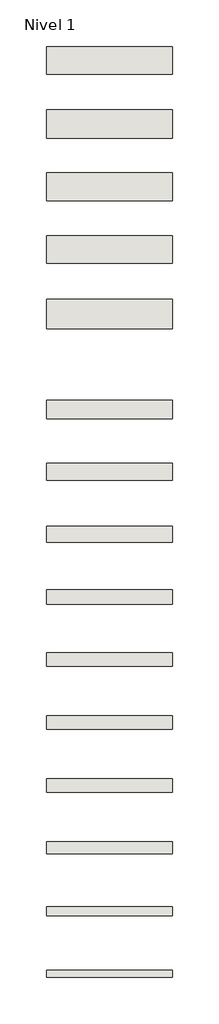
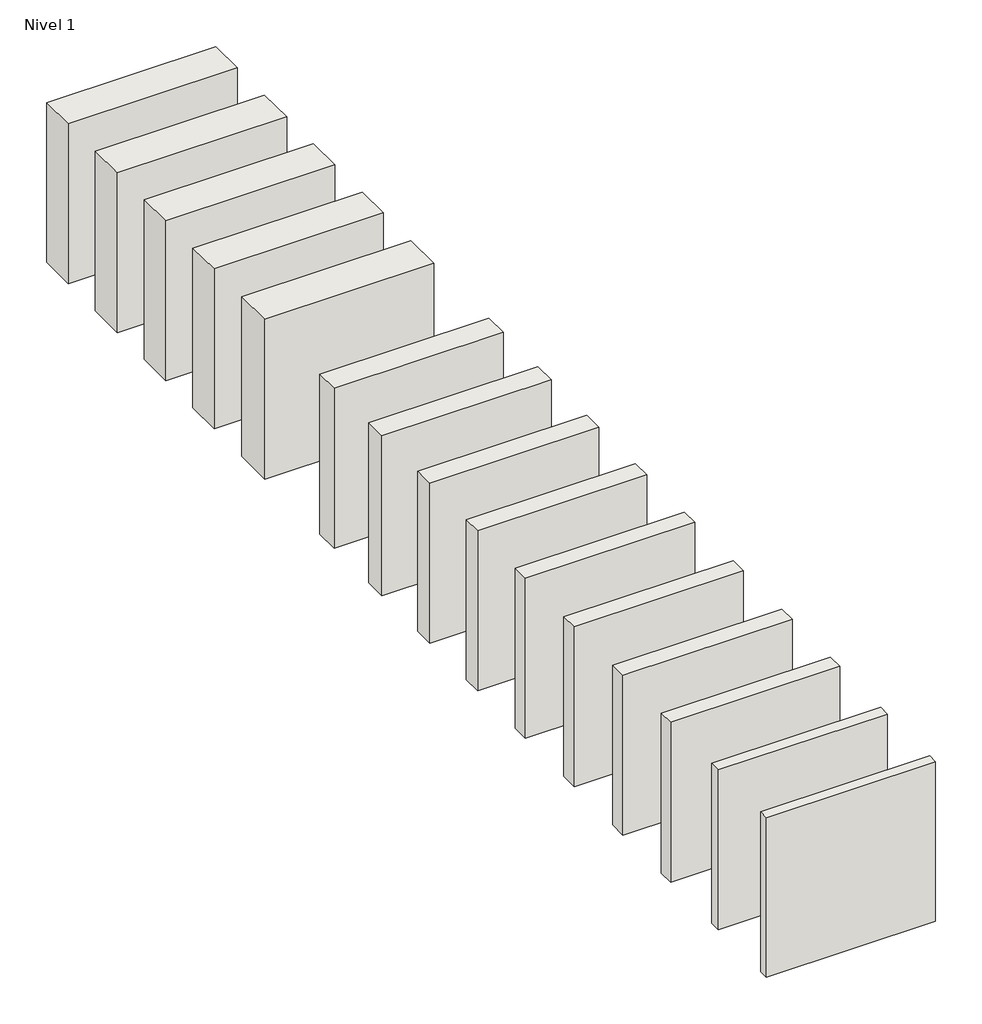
# One storey: 15 walls.
"""IFC4 building model written with IfcOpenShell, lengths in millimetres."""

import ifcopenshell
import ifcopenshell.guid

model = None  # the IFC model being written
_history = None  # IfcOwnerHistory: only IFC2X3 demands one
_inside = {}  # id of a spatial element -> (the spatial element, [elements in it])
_under = {}  # id of a project, library or spatial element -> (it, [spatial elements below it])
_declared = {}  # id of a project -> (the project, [libraries it declares])
_typed = {}  # id of a type object -> (the type object, [elements of that type])
_made_of = {}  # id of a material, layer set ... -> (it, [elements and type objects made of it])


def new_model(schema):
    """Start an empty IFC model of exactly this schema.

    Asked for "IFC4X3", IfcOpenShell would pick the latest addendum, in which some entities
    have other attributes; the version numbers below select the first issue.
    IFC2X3 requires an IfcOwnerHistory on every rooted entity: one is made here for all.
    """
    global model, _history
    if schema == "IFC4X3":
        model = ifcopenshell.file(schema_version=(4, 3, 0, 0))
    else:
        model = ifcopenshell.file(schema=schema)
    _inside.clear()
    _under.clear()
    _declared.clear()
    _typed.clear()
    _made_of.clear()
    _history = None
    if model.schema == "IFC2X3":
        org = make("IfcOrganization", Name="unknown")
        user = make(
            "IfcPersonAndOrganization",
            ThePerson=make("IfcPerson", FamilyName="unknown"),
            TheOrganization=org,
        )
        app = make(
            "IfcApplication",
            ApplicationDeveloper=org,
            Version="unknown",
            ApplicationFullName="unknown",
            ApplicationIdentifier="unknown",
        )
        _history = make(
            "IfcOwnerHistory",
            OwningUser=user,
            OwningApplication=app,
            ChangeAction="ADDED",
            CreationDate=0,
        )
    return model


def make(cls, **values):
    """One entity of the class cls with the attributes given. An attribute that is None is left unset."""
    return model.create_entity(
        cls, **{name: value for name, value in values.items() if value is not None}
    )


def rooted(cls, **values):
    """An entity with a GlobalId (a new one), such as an element, a storey or a relation."""
    return make(cls, GlobalId=ifcopenshell.guid.new(), OwnerHistory=_history, **values)


def si_unit(unit_type, name, prefix=None):
    """IfcSIUnit, for example si_unit("LENGTHUNIT", "METRE", prefix="MILLI")."""
    return make("IfcSIUnit", UnitType=unit_type, Prefix=prefix, Name=name)


def assignment(units):
    """IfcUnitAssignment: the units of a project."""
    return None if units is None else make("IfcUnitAssignment", Units=units)


def point(xyz):
    """IfcCartesianPoint."""
    return None if xyz is None else make("IfcCartesianPoint", Coordinates=xyz)


def direction(xyz):
    """IfcDirection."""
    return None if xyz is None else make("IfcDirection", DirectionRatios=xyz)


def frame(location, z_axis=None, x_axis=None):
    """IfcAxis2Placement3D, a coordinate frame: its origin and axes. An axis left out is left unset."""
    return make(
        "IfcAxis2Placement3D",
        Location=point(location),
        Axis=direction(z_axis),
        RefDirection=direction(x_axis),
    )


def origin():
    """The frame at (0, 0, 0) with its axes left unset."""
    return frame((0.0, 0.0, 0.0))


def origin_with_axes():
    """The frame at (0, 0, 0) with the z axis (0, 0, 1) and the x axis (1, 0, 0) written out."""
    return frame((0.0, 0.0, 0.0), z_axis=(0.0, 0.0, 1.0), x_axis=(1.0, 0.0, 0.0))


def place(relative_to, where):
    """IfcLocalPlacement: puts the frame where relative to a parent placement (None: the world)."""
    return make(
        "IfcLocalPlacement", PlacementRelTo=relative_to, RelativePlacement=where
    )


def context(
    kind, dimensions, precision=None, world=None, true_north=None, identifier=None
):
    """IfcGeometricRepresentationContext, for example the 3D "Model" context."""
    return make(
        "IfcGeometricRepresentationContext",
        ContextIdentifier=identifier,
        ContextType=kind,
        CoordinateSpaceDimension=dimensions,
        Precision=precision,
        WorldCoordinateSystem=world,
        TrueNorth=true_north,
    )


def project(units=None, contexts=None):
    """IfcProject with its units and contexts."""
    return rooted(
        "IfcProject",
        Name="project",
        RepresentationContexts=contexts,
        UnitsInContext=assignment(units),
    )


def spatial(cls, under=None, at=None, **own):
    """A site, building, storey or space (cls), placed at a placement, below another one or the project."""
    s = rooted(cls, ObjectPlacement=at, **own)
    if under is not None:
        _under.setdefault(under.id(), (under, []))[1].append(s)
    return s


def polyline(points):
    """IfcPolyline through the points."""
    return make("IfcPolyline", Points=[point(p) for p in points])


def outline(outer, holes=None, kind="AREA"):
    """IfcArbitraryClosedProfileDef: a profile drawn as a closed curve; with holes, ...WithVoids."""
    if holes is None:
        return make("IfcArbitraryClosedProfileDef", ProfileType=kind, OuterCurve=outer)
    return make(
        "IfcArbitraryProfileDefWithVoids",
        ProfileType=kind,
        OuterCurve=outer,
        InnerCurves=holes,
    )


def extrude(swept, where, along, depth):
    """IfcExtrudedAreaSolid: the profile swept, set in the frame where, extruded along a direction by depth."""
    return make(
        "IfcExtrudedAreaSolid",
        SweptArea=swept,
        Position=where,
        ExtrudedDirection=direction(along),
        Depth=depth,
    )


def shape(context_of_items, identifier, shape_type, items):
    """IfcShapeRepresentation: the items that make up one representation, for example the "Body"."""
    return make(
        "IfcShapeRepresentation",
        ContextOfItems=context_of_items,
        RepresentationIdentifier=identifier,
        RepresentationType=shape_type,
        Items=items,
    )


def made_of(thing, what):
    """Note that an element or type object is made of a material, layer set ...; save() writes the relation."""
    if what is not None:
        _made_of.setdefault(what.id(), (what, []))[1].append(thing)
    return thing


def element(
    cls,
    number,
    at=None,
    inside=None,
    cuts=None,
    type_object=None,
    material=None,
    context=None,
    identifier="Body",
    shape_type=None,
    held_by="IfcProductDefinitionShape",
    body=None,
    shapes=None,
    **own,
):
    """One element of the class cls, such as IfcWall. Its Tag is "e" and its number.

    at: its placement. inside: the storey or other place that contains it. cuts: it is an
    opening in that element (IfcRelVoidsElement). A single representation is given by context,
    identifier, shape_type and body (its items); several are given by shapes. held_by: the class
    of the entity that holds the representations. save() writes the other relations.
    """
    e = rooted(cls, Tag="e%d" % number, ObjectPlacement=at, **own)
    if body is not None:
        shapes = [shape(context, identifier, shape_type, body)]
    if shapes is not None:
        e.Representation = make(held_by, Representations=shapes)
    if inside is not None:
        _inside.setdefault(inside.id(), (inside, []))[1].append(e)
    if cuts is not None:
        rooted(
            "IfcRelVoidsElement", RelatingBuildingElement=cuts, RelatedOpeningElement=e
        )
    if type_object is not None:
        _typed.setdefault(type_object.id(), (type_object, []))[1].append(e)
    return made_of(e, material)


def aggregate(whole, parts):
    """IfcRelAggregates: a whole, such as a stair, and the parts it consists of."""
    return rooted("IfcRelAggregates", RelatingObject=whole, RelatedObjects=parts)


def save(model, path):
    """Write the relations noted so far, then the file.

    IfcRelAggregates (storeys below a building ...), IfcRelContainedInSpatialStructure (elements
    in a storey), IfcRelDefinesByType, IfcRelAssociatesMaterial and IfcRelDeclares: one each for
    every whole, place, type object, material and project.
    """
    for whole, parts in _under.values():
        aggregate(whole, parts)
    for where, things in _inside.values():
        rooted(
            "IfcRelContainedInSpatialStructure",
            RelatedElements=things,
            RelatingStructure=where,
        )
    for kind, things in _typed.values():
        rooted("IfcRelDefinesByType", RelatedObjects=things, RelatingType=kind)
    for what, things in _made_of.values():
        rooted("IfcRelAssociatesMaterial", RelatedObjects=things, RelatingMaterial=what)
    for by, libraries in _declared.values():
        rooted("IfcRelDeclares", RelatingContext=by, RelatedDefinitions=libraries)
    model.write(path)


model = new_model("IFC4")

# Units and contexts
model_context = context("Model", 3, world=origin())
ifc_project = project(units=[si_unit("LENGTHUNIT", "METRE", prefix="MILLI")], contexts=[model_context])

# Site, building, storey
site = spatial("IfcSite", under=ifc_project)
building = spatial("IfcBuilding", under=site)
storey = spatial("IfcBuildingStorey", under=building, Name="Nivel 1", Elevation=0.0)

# Walls
placement = place(None, origin())
element("IfcWall", 1, ObjectType="Tabimax Megabrick 4", at=placement, inside=storey, context=model_context, shape_type="SweptSolid", body=[
    extrude(outline(polyline([(-1966.2152419, 1661.7890128), (-2966.2152419, 1661.7890128), (-2966.2152419, 1719.7890128), (-1966.2152419, 1719.7890128), (-1966.2152419, 1661.7890128)])), origin_with_axes(), (0.0, 0.0, 1.0), 1000.0),
])
element("IfcWall", 2, ObjectType="Tabimax Megabrick 5", at=placement, inside=storey, context=model_context, shape_type="SweptSolid", body=[
    extrude(outline(polyline([(-1966.2152419, 2151.7890128), (-2966.2152419, 2151.7890128), (-2966.2152419, 2219.7890128), (-1966.2152419, 2219.7890128), (-1966.2152419, 2151.7890128)])), origin_with_axes(), (0.0, 0.0, 1.0), 1000.0),
])
element("IfcWall", 3, ObjectType="Tabimax Megabrick 6", at=placement, inside=storey, context=model_context, shape_type="SweptSolid", body=[
    extrude(outline(polyline([(-1966.2152419, 2641.7890128), (-2966.2152419, 2641.7890128), (-2966.2152419, 2737.7890128), (-1966.2152419, 2737.7890128), (-1966.2152419, 2641.7890128)])), origin_with_axes(), (0.0, 0.0, 1.0), 1000.0),
])
element("IfcWall", 4, ObjectType="Tabimax Megabrick 7 Tabique", at=placement, inside=storey, context=model_context, shape_type="SweptSolid", body=[
    extrude(outline(polyline([(-1966.2152419, 3129.8319856), (-2966.2152419, 3129.8319856), (-2966.2152419, 3233.8319856), (-1966.2152419, 3233.8319856), (-1966.2152419, 3129.8319856)])), origin_with_axes(), (0.0, 0.0, 1.0), 1000.0),
])
element("IfcWall", 5, ObjectType="Tabimax Megabrick 7 Triple Acústico", at=placement, inside=storey, context=model_context, shape_type="SweptSolid", body=[
    extrude(outline(polyline([(-1966.2152419, 3627.8319856), (-2966.2152419, 3627.8319856), (-2966.2152419, 3733.8319856), (-1966.2152419, 3733.8319856), (-1966.2152419, 3627.8319856)])), origin_with_axes(), (0.0, 0.0, 1.0), 1000.0),
])
element("IfcWall", 6, ObjectType="Tabimax Megabrick 7", at=placement, inside=storey, context=model_context, shape_type="SweptSolid", body=[
    extrude(outline(polyline([(-1966.2152419, 4127.8319856), (-2966.2152419, 4127.8319856), (-2966.2152419, 4233.8319856), (-1966.2152419, 4233.8319856), (-1966.2152419, 4127.8319856)])), origin_with_axes(), (0.0, 0.0, 1.0), 1000.0),
])
element("IfcWall", 7, ObjectType="Tabimax Megabrick 8", at=placement, inside=storey, context=model_context, shape_type="SweptSolid", body=[
    extrude(outline(polyline([(-1966.2152419, 4617.8319856), (-2966.2152419, 4617.8319856), (-2966.2152419, 4733.8319856), (-1966.2152419, 4733.8319856), (-1966.2152419, 4617.8319856)])), origin_with_axes(), (0.0, 0.0, 1.0), 1000.0),
])
element("IfcWall", 8, ObjectType="Tabimax Megabrick 9", at=placement, inside=storey, context=model_context, shape_type="SweptSolid", body=[
    extrude(outline(polyline([(-1966.2152419, 5107.8319856), (-2966.2152419, 5107.8319856), (-2966.2152419, 5233.8319856), (-1966.2152419, 5233.8319856), (-1966.2152419, 5107.8319856)])), origin_with_axes(), (0.0, 0.0, 1.0), 1000.0),
])
element("IfcWall", 9, ObjectType="Tabimax Megabrick 10", at=placement, inside=storey, context=model_context, shape_type="SweptSolid", body=[
    extrude(outline(polyline([(-1966.2152419, 5597.8319856), (-2966.2152419, 5597.8319856), (-2966.2152419, 5733.8319856), (-1966.2152419, 5733.8319856), (-1966.2152419, 5597.8319856)])), origin_with_axes(), (0.0, 0.0, 1.0), 1000.0),
])
element("IfcWall", 10, ObjectType="Tabimax Megabrick Triplex 11 cm", at=placement, inside=storey, context=model_context, shape_type="SweptSolid", body=[
    extrude(outline(polyline([(-1966.2152419, 6087.8319856), (-2966.2152419, 6087.8319856), (-2966.2152419, 6233.8319856), (-1966.2152419, 6233.8319856), (-1966.2152419, 6087.8319856)])), origin_with_axes(), (0.0, 0.0, 1.0), 1000.0),
])
element("IfcWall", 11, ObjectType="Tabimax doble hoja Megabrick Triplex 11 cm + lana mineral + Megabrick 5", at=placement, inside=storey, context=model_context, shape_type="SweptSolid", body=[
    extrude(outline(polyline([(-1966.2152419, 6797.8319856), (-2966.2152419, 6797.8319856), (-2966.2152419, 7033.8319856), (-1966.2152419, 7033.8319856), (-1966.2152419, 6797.8319856)])), origin_with_axes(), (0.0, 0.0, 1.0), 1000.0),
])
element("IfcWall", 12, ObjectType="Tabimax doble hoja Megabrick Triple Acústico 7 + lana mineral + Megabrick 6", at=placement, inside=storey, context=model_context, shape_type="SweptSolid", body=[
    extrude(outline(polyline([(-1966.2152419, 7317.8319856), (-2966.2152419, 7317.8319856), (-2966.2152419, 7533.8319856), (-1966.2152419, 7533.8319856), (-1966.2152419, 7317.8319856)])), origin_with_axes(), (0.0, 0.0, 1.0), 1000.0),
])
element("IfcWall", 13, ObjectType="Tabimax doble hoja Megabrick Triple Acústico 7 + lana mineral + Megabrick 7", at=placement, inside=storey, context=model_context, shape_type="SweptSolid", body=[
    extrude(outline(polyline([(-1966.2152419, 7812.8319856), (-2966.2152419, 7812.8319856), (-2966.2152419, 8033.8319856), (-1966.2152419, 8033.8319856), (-1966.2152419, 7812.8319856)])), origin_with_axes(), (0.0, 0.0, 1.0), 1000.0),
])
element("IfcWall", 14, ObjectType="Tabimax doble hoja Megabrick 7 + enfoscado mortero + lana mineral + Megabrick 7", at=placement, inside=storey, context=model_context, shape_type="SweptSolid", body=[
    extrude(outline(polyline([(-1966.2152419, 8307.8319856), (-2966.2152419, 8307.8319856), (-2966.2152419, 8533.8319856), (-1966.2152419, 8533.8319856), (-1966.2152419, 8307.8319856)])), origin_with_axes(), (0.0, 0.0, 1.0), 1000.0),
])
element("IfcWall", 15, ObjectType="Tabimax doble hoja Megabrick 7 + lana mineral + Megabrick 7", at=placement, inside=storey, context=model_context, shape_type="SweptSolid", body=[
    extrude(outline(polyline([(-1966.2152419, 8812.8319856), (-2966.2152419, 8812.8319856), (-2966.2152419, 9033.8319856), (-1966.2152419, 9033.8319856), (-1966.2152419, 8812.8319856)])), origin_with_axes(), (0.0, 0.0, 1.0), 1000.0),
])

save(model, "model.ifc")
